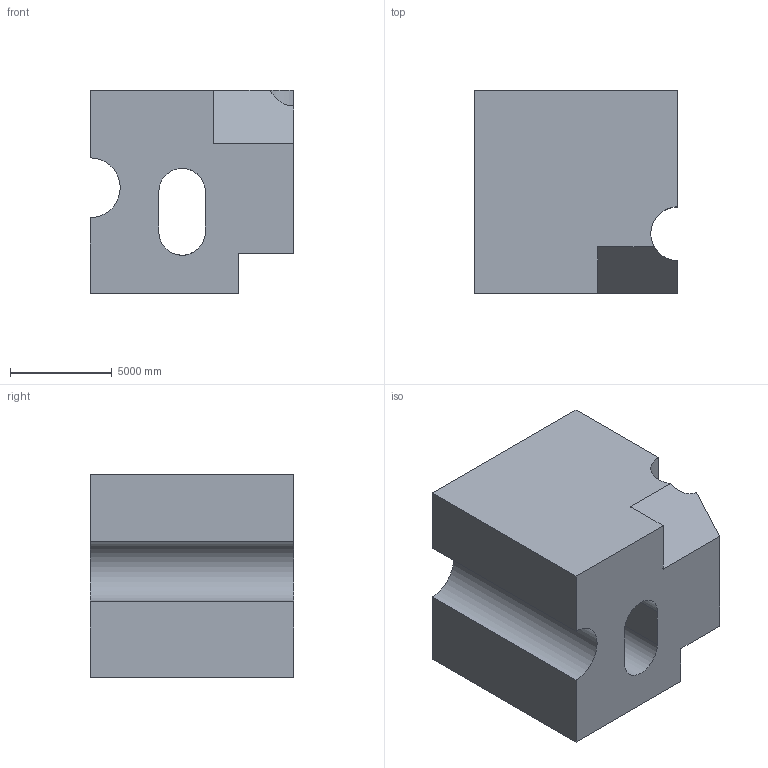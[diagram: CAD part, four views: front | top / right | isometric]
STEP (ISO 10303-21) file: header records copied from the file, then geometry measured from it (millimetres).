
FILE_DESCRIPTION (( 'STEP AP203' ), '1' );
FILE_NAME ('606.STEP', '2022-07-29T12:03:37', ( 'user' ), ( '' ), 'SwSTEP 2.0', 'SolidWorks 2021', '' );
FILE_SCHEMA (( 'CONFIG_CONTROL_DESIGN' ));
Length unit declared in the file: centimetre
Products named in the file (1): 606
Bounding box: 10000 x 10000 x 10000 mm (x, y, z)
Volume: 770348433045 mm3; surface area: 720643696.3 mm2
Topology: 1 solids, 1 shells, 28 faces, 78 edges, 52 vertices
Faces by surface type: plane 19, cylinder 9
Entity records: 1125 total; most frequent: CARTESIAN_POINT 310, ORIENTED_EDGE 156, DIRECTION 151, EDGE_CURVE 78, LINE 57, VECTOR 57, VERTEX_POINT 52, AXIS2_PLACEMENT_3D 47
